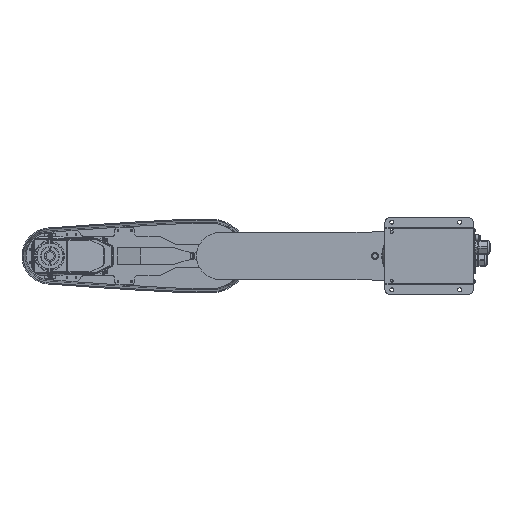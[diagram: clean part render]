
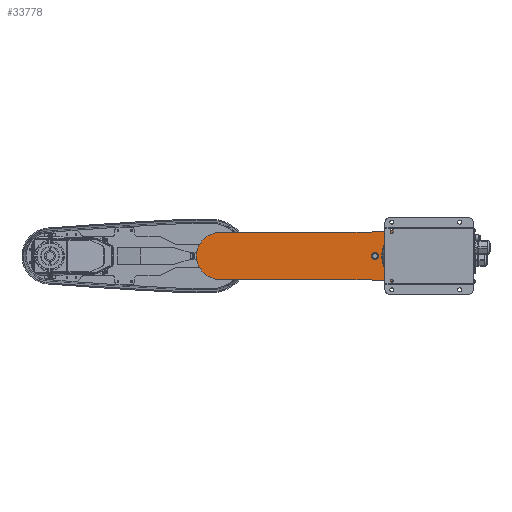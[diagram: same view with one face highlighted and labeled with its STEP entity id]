
A CAD part, front view. The second image highlights one B-rep face of the part: STEP entity #33778.
In plain terms, the highlighted planar face has unit normal (0, -1, 0).
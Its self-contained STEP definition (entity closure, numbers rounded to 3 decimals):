
#32698=DIRECTION('',(1.,0.,0.));
#32699=VECTOR('',#32698,287.229);
#32700=CARTESIAN_POINT('',(-425.,-50.,-51.637));
#32701=LINE('',#32700,#32699);
#32702=CARTESIAN_POINT('',(-425.,-50.,0.));
#32703=DIRECTION('',(0.,-1.,0.));
#32704=DIRECTION('',(0.,0.,1.));
#32705=AXIS2_PLACEMENT_3D('',#32702,#32703,#32704);
#32707=DIRECTION('',(-1.,0.,0.));
#32708=VECTOR('',#32707,287.229);
#32709=CARTESIAN_POINT('',(-137.771,-50.,51.637));
#32710=LINE('',#32709,#32708);
#32711=CARTESIAN_POINT('',(-137.771,-50.,1049.997));
#32712=DIRECTION('',(0.,1.,0.));
#32713=DIRECTION('',(0.13,0.,-0.992));
#32714=AXIS2_PLACEMENT_3D('',#32711,#32712,#32713);
#32716=CARTESIAN_POINT('',(0.,-50.,0.));
#32717=DIRECTION('',(0.,-1.,0.));
#32718=DIRECTION('',(0.,0.,1.));
#32719=AXIS2_PLACEMENT_3D('',#32716,#32717,#32718);
#32721=CARTESIAN_POINT('',(0.,-50.,0.));
#32722=DIRECTION('',(0.,-1.,0.));
#32723=DIRECTION('',(0.,0.,-1.));
#32724=AXIS2_PLACEMENT_3D('',#32721,#32722,#32723);
#32726=CARTESIAN_POINT('',(0.,-50.,0.));
#32727=DIRECTION('',(0.,-1.,0.));
#32728=DIRECTION('',(-0.13,0.,-0.992));
#32729=AXIS2_PLACEMENT_3D('',#32726,#32727,#32728);
#32731=CARTESIAN_POINT('',(-137.771,-50.,-1049.997));
#32732=DIRECTION('',(0.,1.,0.));
#32733=DIRECTION('',(0.,0.,1.));
#32734=AXIS2_PLACEMENT_3D('',#32731,#32732,#32733);
#32736=CARTESIAN_POINT('',(-82.,-50.,0.));
#32737=DIRECTION('',(0.,1.,0.));
#32738=DIRECTION('',(0.,0.,1.));
#32739=AXIS2_PLACEMENT_3D('',#32736,#32737,#32738);
#32741=CARTESIAN_POINT('',(-82.,-50.,0.));
#32742=DIRECTION('',(0.,1.,0.));
#32743=DIRECTION('',(0.,0.,-1.));
#32744=AXIS2_PLACEMENT_3D('',#32741,#32742,#32743);
#32746=CARTESIAN_POINT('',(0.,-50.,0.));
#32747=DIRECTION('',(0.,1.,0.));
#32748=DIRECTION('',(0.,0.,1.));
#32749=AXIS2_PLACEMENT_3D('',#32746,#32747,#32748);
#32751=CARTESIAN_POINT('',(0.,-50.,0.));
#32752=DIRECTION('',(0.,1.,0.));
#32753=DIRECTION('',(0.,0.,-1.));
#32754=AXIS2_PLACEMENT_3D('',#32751,#32752,#32753);
#33325=CARTESIAN_POINT('',(-425.,-50.,51.637));
#33326=VERTEX_POINT('',#33325);
#33327=CARTESIAN_POINT('',(-137.771,-50.,51.637));
#33328=VERTEX_POINT('',#33327);
#33333=CARTESIAN_POINT('',(-137.771,-50.,-51.637));
#33334=VERTEX_POINT('',#33333);
#33335=CARTESIAN_POINT('',(-425.,-50.,-51.637));
#33336=VERTEX_POINT('',#33335);
#33337=CARTESIAN_POINT('',(-7.889,-50.,-60.122));
#33338=VERTEX_POINT('',#33337);
#33339=CARTESIAN_POINT('',(0.,-50.,60.637));
#33340=CARTESIAN_POINT('',(-7.889,-50.,60.122));
#33341=VERTEX_POINT('',#33339);
#33342=VERTEX_POINT('',#33340);
#33343=CARTESIAN_POINT('',(0.,-50.,-60.637));
#33344=VERTEX_POINT('',#33343);
#33486=CARTESIAN_POINT('',(0.,-50.,42.5));
#33488=VERTEX_POINT('',#33486);
#33490=CARTESIAN_POINT('',(0.,-50.,-42.5));
#33492=VERTEX_POINT('',#33490);
#33497=CARTESIAN_POINT('',(-82.,-50.,-7.5));
#33498=VERTEX_POINT('',#33497);
#33499=CARTESIAN_POINT('',(-82.,-50.,7.5));
#33500=VERTEX_POINT('',#33499);
#33751=CARTESIAN_POINT('',(-425.,-50.,0.));
#33752=DIRECTION('',(0.,1.,0.));
#33753=DIRECTION('',(0.,0.,1.));
#33754=AXIS2_PLACEMENT_3D('',#33751,#33752,#33753);
#33755=PLANE('',#33754);
#33756=ORIENTED_EDGE('',*,*,#33648,.F.);
#33757=ORIENTED_EDGE('',*,*,#33669,.F.);
#33758=ORIENTED_EDGE('',*,*,#33691,.F.);
#33759=ORIENTED_EDGE('',*,*,#33712,.F.);
#33760=ORIENTED_EDGE('',*,*,#33736,.F.);
#33761=ORIENTED_EDGE('',*,*,#33734,.F.);
#33762=ORIENTED_EDGE('',*,*,#33732,.F.);
#33763=ORIENTED_EDGE('',*,*,#33626,.F.);
#33764=EDGE_LOOP('',(#33756,#33757,#33758,#33759,#33760,#33761,#33762,#33763));
#33765=FACE_OUTER_BOUND('',#33764,.F.);
#33767=ORIENTED_EDGE('',*,*,#33766,.F.);
#33769=ORIENTED_EDGE('',*,*,#33768,.F.);
#33770=EDGE_LOOP('',(#33767,#33769));
#33771=FACE_BOUND('',#33770,.F.);
#33773=ORIENTED_EDGE('',*,*,#33772,.F.);
#33775=ORIENTED_EDGE('',*,*,#33774,.F.);
#33776=EDGE_LOOP('',(#33773,#33775));
#33777=FACE_BOUND('',#33776,.F.);
#32706=CIRCLE('',#32705,51.637);
#32715=CIRCLE('',#32714,998.36);
#32720=CIRCLE('',#32719,60.637);
#32725=CIRCLE('',#32724,60.637);
#32730=CIRCLE('',#32729,60.637);
#32735=CIRCLE('',#32734,998.36);
#32740=CIRCLE('',#32739,7.5);
#32745=CIRCLE('',#32744,7.5);
#32750=CIRCLE('',#32749,42.5);
#32755=CIRCLE('',#32754,42.5);
#33626=EDGE_CURVE('',#33334,#33338,#32735,.T.);
#33648=EDGE_CURVE('',#33336,#33334,#32701,.T.);
#33669=EDGE_CURVE('',#33326,#33336,#32706,.T.);
#33691=EDGE_CURVE('',#33328,#33326,#32710,.T.);
#33712=EDGE_CURVE('',#33342,#33328,#32715,.T.);
#33732=EDGE_CURVE('',#33338,#33344,#32730,.T.);
#33734=EDGE_CURVE('',#33344,#33341,#32725,.T.);
#33736=EDGE_CURVE('',#33341,#33342,#32720,.T.);
#33766=EDGE_CURVE('',#33500,#33498,#32740,.T.);
#33768=EDGE_CURVE('',#33498,#33500,#32745,.T.);
#33772=EDGE_CURVE('',#33488,#33492,#32750,.T.);
#33774=EDGE_CURVE('',#33492,#33488,#32755,.T.);
#33778=ADVANCED_FACE('',(#33765,#33771,#33777),#33755,.F.);
